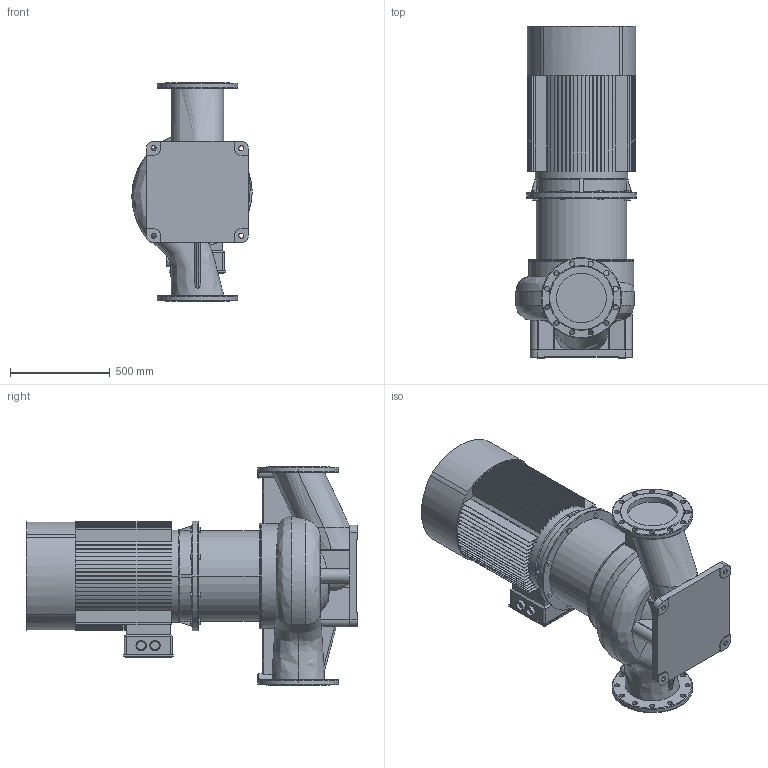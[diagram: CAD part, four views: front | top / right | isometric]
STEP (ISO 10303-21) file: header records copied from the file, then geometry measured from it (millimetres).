
FILE_DESCRIPTION (( 'STEP AP203' ), '1' );
FILE_NAME ('TD250-36_4.STEP', '2022-05-02T18:06:16', ( '' ), ( '' ), 'SwSTEP 2.0', 'SolidWorks 2019', '' );
FILE_SCHEMA (( 'CONFIG_CONTROL_DESIGN' ));
Length unit declared in the file: millimetre
Products named in the file (4): ED_B5_YE2-280S-4 (75); Fon_250_TD250-36_4; TD250-36_4; Pr_ch 250_TD250-36_4
Assembly tree (3 placements, depth 2):
  TD250-36_4
    Pr_ch 250_TD250-36_4
    Fon_250_TD250-36_4
    ED_B5_YE2-280S-4 (75)
Bounding box: 604.74 x 1667 x 1100 mm (x, y, z)
Volume: 313700748.8 mm3; surface area: 8948668.4 mm2
Topology: 13 solids, 15 shells, 825 faces, 2247 edges, 1490 vertices
Faces by surface type: plane 566, cylinder 188, torus 34, bspline 20, cone 17
Entity records: 35420 total; most frequent: CARTESIAN_POINT 13656, ORIENTED_EDGE 4494, DIRECTION 4438, EDGE_CURVE 2247, AXIS2_PLACEMENT_3D 1527, VERTEX_POINT 1490, VECTOR 1384, LINE 1384
